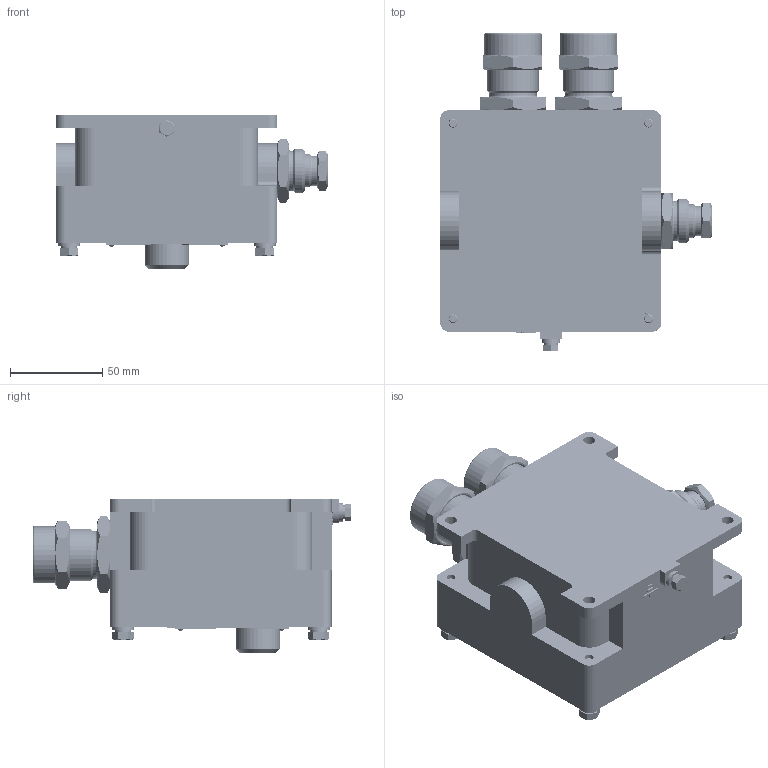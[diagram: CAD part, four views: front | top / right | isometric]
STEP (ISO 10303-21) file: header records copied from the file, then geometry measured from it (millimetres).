
FILE_DESCRIPTION(('STEP AP214'), '1');
FILE_NAME('ﾓﾇﾀ-ﾌ-220ﾂ', '', ('UNSPECIFIED'), ('UNSPECIFIED'), 'ASCON STEP Converter 1.6', 'ASCON Math Kernel', '');
FILE_SCHEMA(('AUTOMOTIVE_DESIGN { 1 0 10303 214 3 1 1}'));
Length unit declared in the file: millimetre
Products named in the file (43): СЕНС.426469.048СБ; СЕНС.741124.842; СЕНС.711212.007; СЕНС.713121.024; СЕНС.713321.009; СЕНС.741124.841; СЕНС.713552.007; СЕНС.754177.041; СЕНС.711141.350; СЕНС.687282.101СБ; Д12С1102; Д12С1103; Д12С1104; Д12С1101; СЕНС.741468.005; СЕНС.713161.059; СЕНС.301536.038СБ; СЕНС.714561.001; СЕНС.754177.023; СЕНС.754140.013; СЕНС.713141.003; СЕНС.754342.300
Assembly tree (77 placements, depth 3):
  СЕНС.426469.048СБ
    СЕНС.741124.842
    СЕНС.711212.007
    СЕНС.713121.024
    СЕНС.713321.009
    (unnamed)
    СЕНС.741124.841
    (unnamed)  x4
    (unnamed)  x4
    (unnamed)  x2
    (unnamed)
    (unnamed)
    (unnamed)  x4
    СЕНС.713552.007  x2
    (unnamed)  x2
    СЕНС.754177.041  x2
    СЕНС.711141.350  x2
    СЕНС.687282.101СБ
      Д12С1102
      Д12С1103
      Д12С1104
      (unnamed)  x3
      (unnamed)  x3
      (unnamed)
      (unnamed)  x2
    (unnamed)  x6
    (unnamed)
    (unnamed)  x2
    (unnamed)
    (unnamed)  x2
    (unnamed)  x2
    (unnamed)
    Д12С1101
    (unnamed)  x2
    СЕНС.741468.005
    (unnamed)  x2
    СЕНС.713161.059  x2
    СЕНС.301536.038СБ
      СЕНС.714561.001
      (unnamed)
      СЕНС.754177.023
      СЕНС.754140.013
      СЕНС.713141.003
    СЕНС.754342.300
    (unnamed)  x4
Bounding box: 147.33 x 172.7 x 83.04 mm (x, y, z)
Volume: 672889.7 mm3; surface area: 214082.2 mm2
Topology: 123 solids, 123 shells, 14699 faces, 41577 edges, 27647 vertices
Faces by surface type: cylinder 8640, plane 5680, extrusion 163, cone 153, torus 49, sphere 14
Full cylindrical faces by diameter (mm): 2 x4, 2.387 x3, 2.459 x3, 2.5 x6, 3 x16, 3.141 x1, 3.2 x10, 3.242 x2, 4 x1, 4.019 x1, 4.3 x2, 4.5 x1, 4.773 x4, 5 x2, 5.3 x2, 5.5 x6, 6 x4, 6.4 x4, 6.5 x8, 8 x2, 9 x2, 9.5 x1, 10 x3, 12 x5, 13 x2, 16 x2, 16.5 x1, 16.7 x1, 16.773 x1, 17 x2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
Entity records: 485554 total; most frequent: CARTESIAN_POINT 88503, DIRECTION 86318, ORIENTED_EDGE 81470, EDGE_CURVE 40735, AXIS2_PLACEMENT_3D 31583, VERTEX_POINT 27243, VECTOR 23152, LINE 22989
